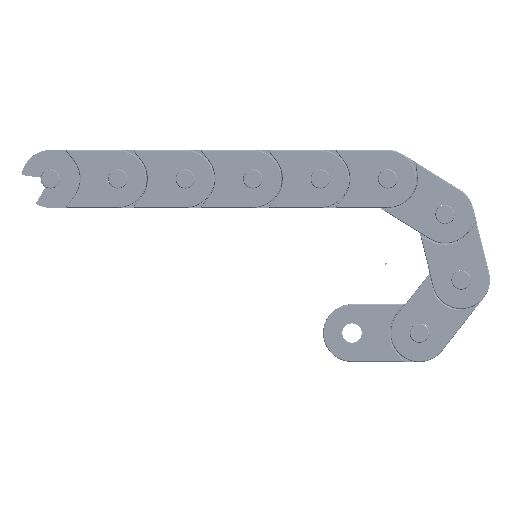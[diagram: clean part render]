
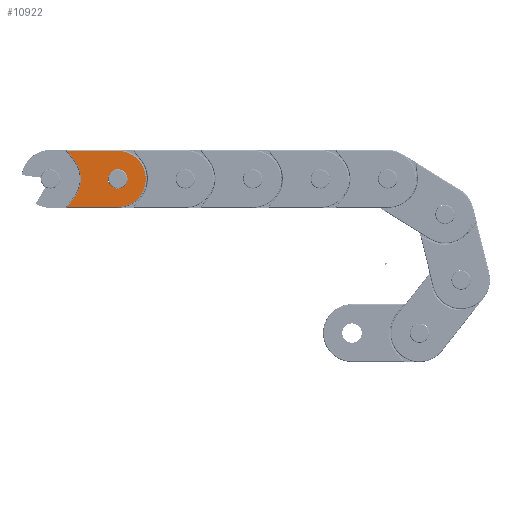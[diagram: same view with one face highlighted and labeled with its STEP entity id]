
A CAD part, left-side view. The second image highlights one B-rep face of the part: STEP entity #10922.
In plain terms, the highlighted free-form (B-spline) face has degree [1, 1] with [2, 2] control points.
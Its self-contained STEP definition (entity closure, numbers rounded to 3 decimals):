
#8185=CARTESIAN_POINT('',(-35.889,-30.583,-72.519));
#8186=VERTEX_POINT('',#8185);
#8187=CARTESIAN_POINT('',(-40.939,-30.583,-72.519));
#8188=DIRECTION('',(0.0,0.0,-1.0));
#8189=DIRECTION('',(-1.0,0.0,0.0));
#8190=AXIS2_PLACEMENT_3D('',#8187,#8188,#8189);
#8191=CIRCLE('',#8190,5.05);
#8192=EDGE_CURVE('',#8186,#8186,#8191,.T.);
#8559=CARTESIAN_POINT('',(-14.646,-16.083,-72.519));
#8560=VERTEX_POINT('',#8559);
#8614=CARTESIAN_POINT('',(-14.646,-45.083,-72.519));
#8615=VERTEX_POINT('',#8614);
#8659=CARTESIAN_POINT('',(-18.371,-20.831,-72.519));
#8660=VERTEX_POINT('',#8659);
#8668=CARTESIAN_POINT('',(-14.646,-16.083,-72.519));
#8669=DIRECTION('',(-0.617,-0.787,0.0));
#8670=VECTOR('',#8669,6.035);
#8671=LINE('',#8668,#8670);
#8672=EDGE_CURVE('',#8560,#8660,#8671,.T.);
#8708=CARTESIAN_POINT('',(-18.371,-40.334,-72.519));
#8709=VERTEX_POINT('',#8708);
#8717=CARTESIAN_POINT('',(-5.939,-30.583,-72.519));
#8718=DIRECTION('',(0.,0.,1.0));
#8719=DIRECTION('',(-1.,0.,0.));
#8720=AXIS2_PLACEMENT_3D('',#8717,#8718,#8719);
#8721=CIRCLE('',#8720,15.8);
#8722=EDGE_CURVE('',#8660,#8709,#8721,.T.);
#8755=CARTESIAN_POINT('',(-18.371,-40.334,-72.519));
#8756=DIRECTION('',(0.617,-0.787,0.0));
#8757=VECTOR('',#8756,6.035);
#8758=LINE('',#8755,#8757);
#8759=EDGE_CURVE('',#8709,#8615,#8758,.T.);
#8797=CARTESIAN_POINT('',(-40.939,-16.083,-72.519));
#8798=VERTEX_POINT('',#8797);
#8815=CARTESIAN_POINT('',(-40.939,-16.083,-72.519));
#8816=DIRECTION('',(1.0,0.0,0.0));
#8817=VECTOR('',#8816,26.293);
#8818=LINE('',#8815,#8817);
#8819=EDGE_CURVE('',#8798,#8560,#8818,.T.);
#8877=CARTESIAN_POINT('',(-40.939,-45.083,-72.519));
#8878=VERTEX_POINT('',#8877);
#8879=CARTESIAN_POINT('',(-40.939,-30.583,-72.519));
#8880=DIRECTION('',(0.0,0.0,-1.0));
#8881=DIRECTION('',(-1.0,0.0,0.0));
#8882=AXIS2_PLACEMENT_3D('',#8879,#8880,#8881);
#8883=CIRCLE('',#8882,14.5);
#8884=EDGE_CURVE('',#8878,#8798,#8883,.T.);
#8940=CARTESIAN_POINT('',(-14.646,-45.083,-72.519));
#8941=DIRECTION('',(-1.0,0.0,0.0));
#8942=VECTOR('',#8941,26.293);
#8943=LINE('',#8940,#8942);
#8944=EDGE_CURVE('',#8615,#8878,#8943,.T.);
#10906=CARTESIAN_POINT('',(-55.439,-16.083,-72.519));
#10907=CARTESIAN_POINT('',(-14.646,-16.083,-72.519));
#10908=CARTESIAN_POINT('',(-55.439,-45.083,-72.519));
#10909=CARTESIAN_POINT('',(-14.646,-45.083,-72.519));
#10910=B_SPLINE_SURFACE_WITH_KNOTS('',1,1,((#10906,#10908),(#10907,#10909)),.UNSPECIFIED.,.F.,.F.,.U.,(2,2),(2,2),(0.0,40.793),(0.0,29.),.UNSPECIFIED.);
#10911=ORIENTED_EDGE('',*,*,#8944,.T.);
#10912=ORIENTED_EDGE('',*,*,#8884,.T.);
#10913=ORIENTED_EDGE('',*,*,#8819,.T.);
#10914=ORIENTED_EDGE('',*,*,#8672,.T.);
#10915=ORIENTED_EDGE('',*,*,#8722,.T.);
#10916=ORIENTED_EDGE('',*,*,#8759,.T.);
#10917=EDGE_LOOP('',(#10911,#10912,#10913,#10914,#10915,#10916));
#10918=FACE_OUTER_BOUND('',#10917,.T.);
#10919=ORIENTED_EDGE('',*,*,#8192,.F.);
#10920=EDGE_LOOP('',(#10919));
#10921=FACE_BOUND('',#10920,.T.);
#10922=ADVANCED_FACE('',(#10918,#10921),#10910,.T.);
